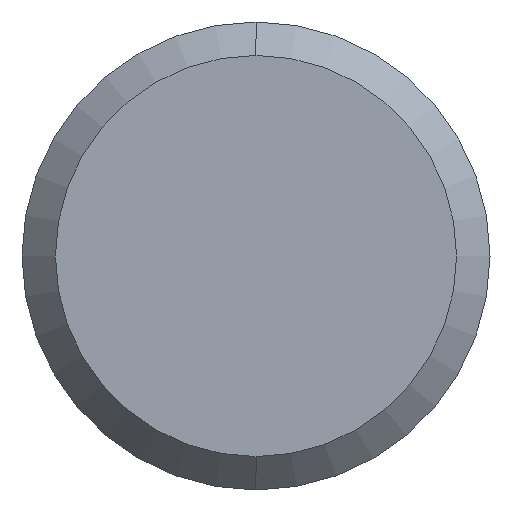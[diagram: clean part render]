
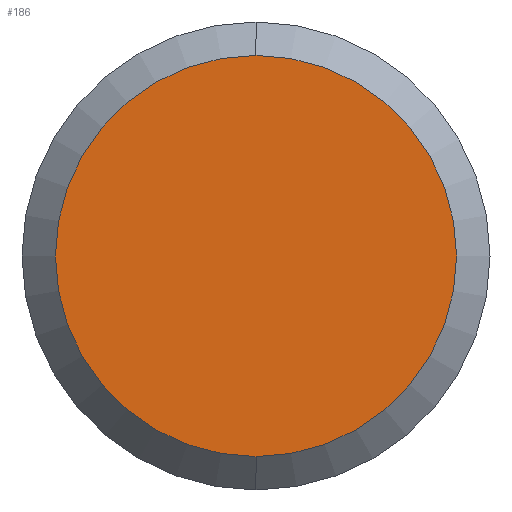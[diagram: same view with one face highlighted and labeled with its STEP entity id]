
A CAD part, left-side view. The second image highlights one B-rep face of the part: STEP entity #186.
In plain terms, the highlighted planar face has unit normal (-1, 0, 0).
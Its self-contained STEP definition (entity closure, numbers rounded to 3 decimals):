
#17 = DIRECTION ( 'NONE',  ( -1., 0., 0. ) ) ;
#42 = EDGE_LOOP ( 'NONE', ( #553, #109 ) ) ;
#60 = CARTESIAN_POINT ( 'NONE',  ( 0., 0., -9. ) ) ;
#109 = ORIENTED_EDGE ( 'NONE', *, *, #328, .T. ) ;
#117 = VERTEX_POINT ( 'NONE', #590 ) ;
#183 = CARTESIAN_POINT ( 'NONE',  ( 0., 0., 0. ) ) ;
#186 = ADVANCED_FACE ( 'NONE', ( #307 ), #523, .F. ) ;
#241 = CIRCLE ( 'NONE', #247, 9. ) ;
#247 = AXIS2_PLACEMENT_3D ( 'NONE', #281, #17, #322 ) ;
#261 = CARTESIAN_POINT ( 'NONE',  ( 0., 0., 0. ) ) ;
#281 = CARTESIAN_POINT ( 'NONE',  ( 0., 0., 0. ) ) ;
#285 = DIRECTION ( 'NONE',  ( 0., 0., -1. ) ) ;
#303 = DIRECTION ( 'NONE',  ( 0., 0., -1. ) ) ;
#307 = FACE_OUTER_BOUND ( 'NONE', #42, .T. ) ;
#322 = DIRECTION ( 'NONE',  ( 0., 0., -1. ) ) ;
#328 = EDGE_CURVE ( 'NONE', #117, #330, #241, .T. ) ;
#330 = VERTEX_POINT ( 'NONE', #60 ) ;
#334 = AXIS2_PLACEMENT_3D ( 'NONE', #261, #591, #303 ) ;
#436 = EDGE_CURVE ( 'NONE', #330, #117, #585, .T. ) ;
#523 = PLANE ( 'NONE',  #574 ) ;
#553 = ORIENTED_EDGE ( 'NONE', *, *, #436, .T. ) ;
#563 = DIRECTION ( 'NONE',  ( 1., 0., 0. ) ) ;
#574 = AXIS2_PLACEMENT_3D ( 'NONE', #183, #563, #285 ) ;
#585 = CIRCLE ( 'NONE', #334, 9. ) ;
#590 = CARTESIAN_POINT ( 'NONE',  ( 0., 0., 9. ) ) ;
#591 = DIRECTION ( 'NONE',  ( -1., 0., 0. ) ) ;
